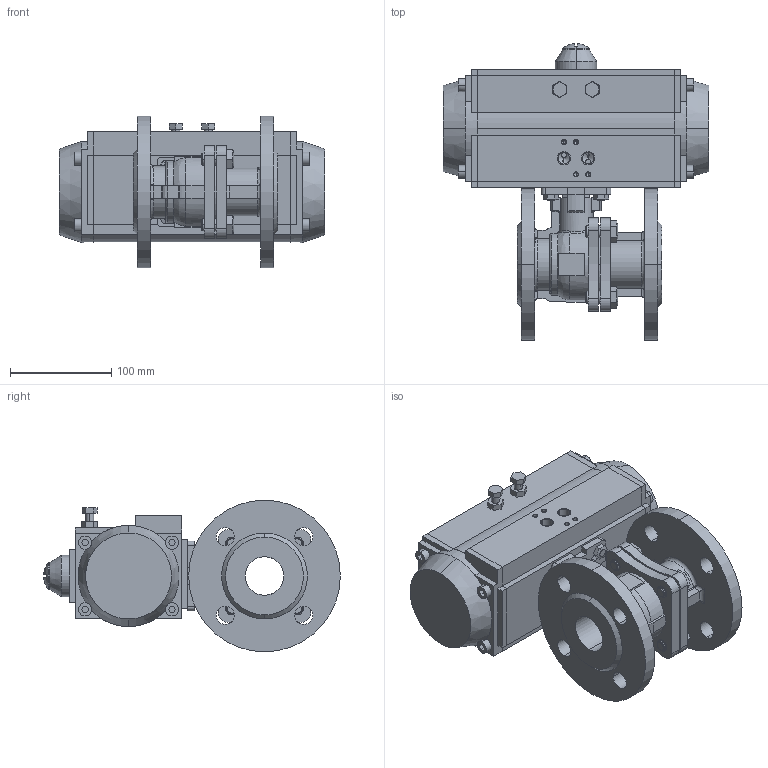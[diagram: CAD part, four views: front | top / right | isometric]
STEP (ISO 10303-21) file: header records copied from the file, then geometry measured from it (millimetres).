
FILE_DESCRIPTION((''),'2;1');
FILE_NAME('BV-22F_RPA_ASM','2024-09-11T',('USER'),(''),'PRO/ENGINEER BY PARAMETRIC TECHNOLOGY CORPORATION, 2011220','PRO/ENGINEER BY PARAMETRIC TECHNOLOGY CORPORATION, 2011220','');
FILE_SCHEMA(('CONFIG_CONTROL_DESIGN'));
Length unit declared in the file: millimetre
Products named in the file (12): KORPUS_KRAN_FL; B-7798-M12-25; SB_KRAN_FL_ASM; KORPUS_PNEVMOPRIVOD; KOLCO_25_GOST13942; KRISKA_VERX; VINT; KRISKA_LEFT; KRISKA_RIGHT; SB_PNEVMOPRIVOD_ASM; B-7798-M8-16; BV-22F_RPA_ASM
Assembly tree (17 placements, depth 3):
  BV-22F_RPA_ASM
    SB_KRAN_FL_ASM
      KORPUS_KRAN_FL
      B-7798-M12-25  x4
    SB_PNEVMOPRIVOD_ASM
      KORPUS_PNEVMOPRIVOD
      KOLCO_25_GOST13942
      KRISKA_VERX
      VINT
      KRISKA_LEFT
      KRISKA_RIGHT
    B-7798-M8-16  x4
Bounding box: 263 x 293.45 x 150 mm (x, y, z)
Volume: 3515540.2 mm3; surface area: 369280.4 mm2
Topology: 15 solids, 49 shells, 837 faces, 2165 edges, 1392 vertices
Faces by surface type: plane 415, cylinder 288, cone 82, torus 27, bspline 21, extrusion 2, sphere 2
Entity records: 24173 total; most frequent: CARTESIAN_POINT 5678, DIRECTION 3935, ORIENTED_EDGE 3634, EDGE_CURVE 1875, AXIS2_PLACEMENT_3D 1413, VERTEX_POINT 1236, VECTOR 1109, LINE 1107
